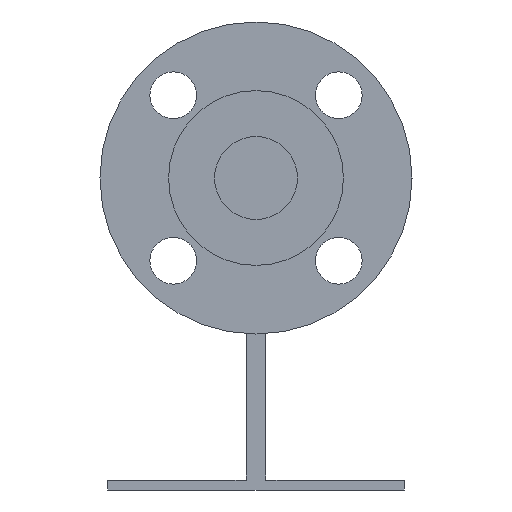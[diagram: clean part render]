
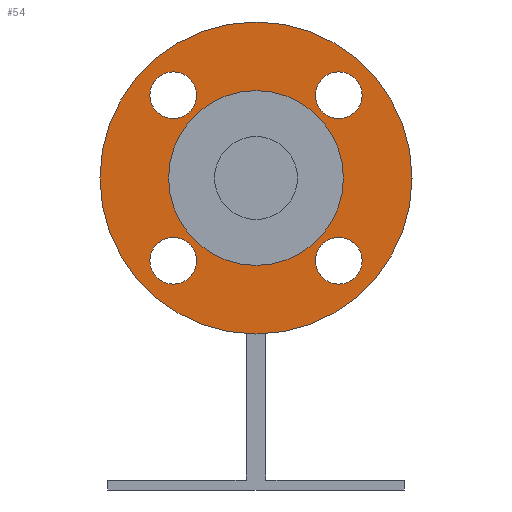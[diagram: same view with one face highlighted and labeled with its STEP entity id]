
A CAD part, left-side view. The second image highlights one B-rep face of the part: STEP entity #54.
In plain terms, the highlighted planar face has unit normal (-1, 0, 0).
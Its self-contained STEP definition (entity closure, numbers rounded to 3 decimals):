
#54=ADVANCED_FACE('',(#268,#269,#270,#271,#272,#273),#267,.T.);
#267=PLANE('',#1005);
#268=FACE_OUTER_BOUND('',#1006,.T.);
#269=FACE_BOUND('',#1007,.T.);
#270=FACE_BOUND('',#1008,.T.);
#271=FACE_BOUND('',#1009,.T.);
#272=FACE_BOUND('',#1010,.T.);
#273=FACE_BOUND('',#1011,.T.);
#1002=CARTESIAN_POINT('',(-339.,-96.603,-110.));
#1003=DIRECTION('',(-1.,0.,0.));
#1004=DIRECTION('',(0.,0.,1.));
#1005=AXIS2_PLACEMENT_3D('',#1002,#1003,#1004);
#1006=EDGE_LOOP('',(#1425,#1426));
#1007=EDGE_LOOP('',(#1427,#1428));
#1008=EDGE_LOOP('',(#1429,#1430));
#1009=EDGE_LOOP('',(#1431,#1432));
#1010=EDGE_LOOP('',(#1433,#1434));
#1011=EDGE_LOOP('',(#1435,#1436));
#1425=ORIENTED_EDGE('',*,*,#1801,.T.);
#1426=ORIENTED_EDGE('',*,*,#1802,.T.);
#1427=ORIENTED_EDGE('',*,*,#1803,.F.);
#1428=ORIENTED_EDGE('',*,*,#1804,.F.);
#1429=ORIENTED_EDGE('',*,*,#1805,.F.);
#1430=ORIENTED_EDGE('',*,*,#1806,.F.);
#1431=ORIENTED_EDGE('',*,*,#1807,.F.);
#1432=ORIENTED_EDGE('',*,*,#1808,.F.);
#1433=ORIENTED_EDGE('',*,*,#1809,.F.);
#1434=ORIENTED_EDGE('',*,*,#1810,.F.);
#1435=ORIENTED_EDGE('',*,*,#1811,.F.);
#1436=ORIENTED_EDGE('',*,*,#1812,.F.);
#1801=EDGE_CURVE('',#2412,#2413,#2414,.T.);
#1802=EDGE_CURVE('',#2413,#2412,#2420,.T.);
#1803=EDGE_CURVE('',#2426,#2427,#2428,.T.);
#1804=EDGE_CURVE('',#2427,#2426,#2434,.T.);
#1805=EDGE_CURVE('',#2440,#2441,#2442,.T.);
#1806=EDGE_CURVE('',#2441,#2440,#2448,.T.);
#1807=EDGE_CURVE('',#2454,#2455,#2456,.T.);
#1808=EDGE_CURVE('',#2455,#2454,#2462,.T.);
#1809=EDGE_CURVE('',#2468,#2469,#2470,.T.);
#1810=EDGE_CURVE('',#2469,#2468,#2476,.T.);
#1811=EDGE_CURVE('',#2482,#2483,#2484,.T.);
#1812=EDGE_CURVE('',#2483,#2482,#2490,.T.);
#2412=VERTEX_POINT('',#3522);
#2413=VERTEX_POINT('',#3523);
#2414=CIRCLE('',#3527,50.);
#2420=CIRCLE('',#3531,50.);
#2426=VERTEX_POINT('',#3532);
#2427=VERTEX_POINT('',#3533);
#2428=CIRCLE('',#3537,7.5);
#2434=CIRCLE('',#3541,7.5);
#2440=VERTEX_POINT('',#3542);
#2441=VERTEX_POINT('',#3543);
#2442=CIRCLE('',#3547,7.5);
#2448=CIRCLE('',#3551,7.5);
#2454=VERTEX_POINT('',#3552);
#2455=VERTEX_POINT('',#3553);
#2456=CIRCLE('',#3557,7.5);
#2462=CIRCLE('',#3561,7.5);
#2468=VERTEX_POINT('',#3562);
#2469=VERTEX_POINT('',#3563);
#2470=CIRCLE('',#3567,28.);
#2476=CIRCLE('',#3571,28.);
#2482=VERTEX_POINT('',#3572);
#2483=VERTEX_POINT('',#3573);
#2484=CIRCLE('',#3577,7.5);
#2490=CIRCLE('',#3581,7.5);
#3522=CARTESIAN_POINT('',(-339.,0.,50.));
#3523=CARTESIAN_POINT('',(-339.,0.,-50.));
#3524=CARTESIAN_POINT('',(-339.,0.,0.));
#3525=DIRECTION('',(-1.,0.,0.));
#3526=DIRECTION('',(0.,0.,1.));
#3527=AXIS2_PLACEMENT_3D('',#3524,#3525,#3526);
#3528=CARTESIAN_POINT('',(-339.,0.,0.));
#3529=DIRECTION('',(-1.,0.,0.));
#3530=DIRECTION('',(0.,0.,1.));
#3531=AXIS2_PLACEMENT_3D('',#3528,#3529,#3530);
#3532=CARTESIAN_POINT('',(-339.,-26.516,34.017));
#3533=CARTESIAN_POINT('',(-339.,-26.516,19.017));
#3534=CARTESIAN_POINT('',(-339.,-26.516,26.517));
#3535=DIRECTION('',(-1.,0.,0.));
#3536=DIRECTION('',(0.,0.,-1.));
#3537=AXIS2_PLACEMENT_3D('',#3534,#3535,#3536);
#3538=CARTESIAN_POINT('',(-339.,-26.516,26.517));
#3539=DIRECTION('',(-1.,0.,0.));
#3540=DIRECTION('',(0.,0.,-1.));
#3541=AXIS2_PLACEMENT_3D('',#3538,#3539,#3540);
#3542=CARTESIAN_POINT('',(-339.,26.517,34.017));
#3543=CARTESIAN_POINT('',(-339.,26.517,19.017));
#3544=CARTESIAN_POINT('',(-339.,26.517,26.517));
#3545=DIRECTION('',(-1.,0.,0.));
#3546=DIRECTION('',(0.,0.,-1.));
#3547=AXIS2_PLACEMENT_3D('',#3544,#3545,#3546);
#3548=CARTESIAN_POINT('',(-339.,26.517,26.517));
#3549=DIRECTION('',(-1.,0.,0.));
#3550=DIRECTION('',(0.,0.,-1.));
#3551=AXIS2_PLACEMENT_3D('',#3548,#3549,#3550);
#3552=CARTESIAN_POINT('',(-339.,-26.516,-19.017));
#3553=CARTESIAN_POINT('',(-339.,-26.516,-34.017));
#3554=CARTESIAN_POINT('',(-339.,-26.516,-26.517));
#3555=DIRECTION('',(-1.,0.,0.));
#3556=DIRECTION('',(0.,0.,-1.));
#3557=AXIS2_PLACEMENT_3D('',#3554,#3555,#3556);
#3558=CARTESIAN_POINT('',(-339.,-26.516,-26.517));
#3559=DIRECTION('',(-1.,0.,0.));
#3560=DIRECTION('',(0.,0.,-1.));
#3561=AXIS2_PLACEMENT_3D('',#3558,#3559,#3560);
#3562=CARTESIAN_POINT('',(-339.,0.,-28.));
#3563=CARTESIAN_POINT('',(-339.,0.,28.));
#3564=CARTESIAN_POINT('',(-339.,0.,0.));
#3565=DIRECTION('',(-1.,0.,0.));
#3566=DIRECTION('',(0.,0.,1.));
#3567=AXIS2_PLACEMENT_3D('',#3564,#3565,#3566);
#3568=CARTESIAN_POINT('',(-339.,0.,0.));
#3569=DIRECTION('',(-1.,0.,0.));
#3570=DIRECTION('',(0.,0.,1.));
#3571=AXIS2_PLACEMENT_3D('',#3568,#3569,#3570);
#3572=CARTESIAN_POINT('',(-339.,26.517,-19.017));
#3573=CARTESIAN_POINT('',(-339.,26.517,-34.017));
#3574=CARTESIAN_POINT('',(-339.,26.517,-26.517));
#3575=DIRECTION('',(-1.,0.,0.));
#3576=DIRECTION('',(0.,0.,-1.));
#3577=AXIS2_PLACEMENT_3D('',#3574,#3575,#3576);
#3578=CARTESIAN_POINT('',(-339.,26.517,-26.517));
#3579=DIRECTION('',(-1.,0.,0.));
#3580=DIRECTION('',(0.,0.,-1.));
#3581=AXIS2_PLACEMENT_3D('',#3578,#3579,#3580);
